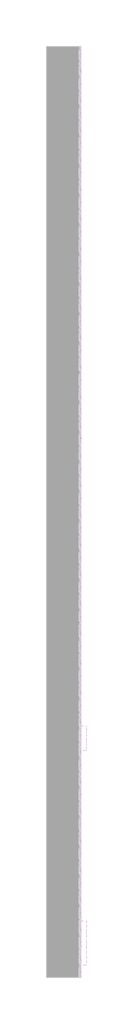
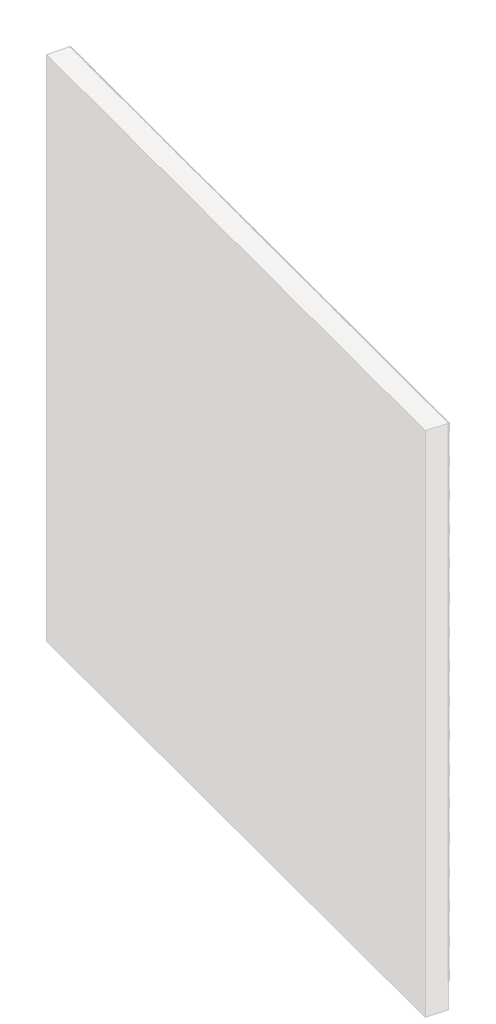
# One storey, part 111 of 121: 145 proxies.
"""IFC4 building model written with IfcOpenShell, lengths in millimetres."""

from ifc_helpers import new_model, si_unit, origin, place, context, project, spatial, transform, mapped, element, save
from components import generic_models_b2b2c5c1, generic_models_9bf73f6f, generic_models_5d175859

model = new_model("IFC4")

# Units and contexts
model_context = context("Model", 3, world=origin())
ifc_project = project(units=[si_unit("LENGTHUNIT", "METRE", prefix="MILLI")], contexts=[model_context])

# Site, building, storey
site = spatial("IfcSite", under=ifc_project)
building = spatial("IfcBuilding", under=site)
storey = spatial("IfcBuildingStorey", under=building, Name="PORTOBELLO - SHOWROOM", Elevation=0.0)

# Proxies
placement = place(None, origin())
generic_models_shape = generic_models_b2b2c5c1(model_context)
element("IfcBuildingElementProxy", 1, Name="PBSHOP - CUBICA WHITE 4,8X8,3 : CUBICA WHITE - POSIÇÃO 01", ObjectType="PBSHOP - CUBICA WHITE 4,8X8,3 : CUBICA WHITE - POSIÇÃO 01", at=placement, inside=storey, context=model_context, shape_type="MappedRepresentation", body=[
    mapped(generic_models_shape, transform((150369.5341846, 20014.1011688, 2249.5920413), x_axis=(0.0, 1.0, 0.0), y_axis=(0.0, 0.0, 1.0), z_axis=(1.0, 0.0, 0.0))),
])
element("IfcBuildingElementProxy", 2, Name="PBSHOP - CUBICA WHITE 4,8X8,3 : CUBICA WHITE - POSIÇÃO 01", ObjectType="PBSHOP - CUBICA WHITE 4,8X8,3 : CUBICA WHITE - POSIÇÃO 01", at=placement, inside=storey, context=model_context, shape_type="MappedRepresentation", body=[
    mapped(generic_models_shape, transform((150369.5341846, 20104.940438, 2249.5920413), x_axis=(0.0, 1.0, 0.0), y_axis=(0.0, 0.0, 1.0), z_axis=(1.0, 0.0, 0.0))),
])
element("IfcBuildingElementProxy", 3, Name="PBSHOP - CUBICA WHITE 4,8X8,3 : CUBICA WHITE - POSIÇÃO 01", ObjectType="PBSHOP - CUBICA WHITE 4,8X8,3 : CUBICA WHITE - POSIÇÃO 01", at=placement, inside=storey, context=model_context, shape_type="MappedRepresentation", body=[
    mapped(generic_models_shape, transform((150369.5341846, 20195.7797073, 2249.5920413), x_axis=(0.0, 1.0, 0.0), y_axis=(0.0, 0.0, 1.0), z_axis=(1.0, 0.0, 0.0))),
])
element("IfcBuildingElementProxy", 4, Name="PBSHOP - CUBICA WHITE 4,8X8,3 : CUBICA WHITE - POSIÇÃO 01", ObjectType="PBSHOP - CUBICA WHITE 4,8X8,3 : CUBICA WHITE - POSIÇÃO 01", at=placement, inside=storey, context=model_context, shape_type="MappedRepresentation", body=[
    mapped(generic_models_shape, transform((150369.5341846, 20286.6189765, 2249.5920413), x_axis=(0.0, 1.0, 0.0), y_axis=(0.0, 0.0, 1.0), z_axis=(1.0, 0.0, 0.0))),
])
element("IfcBuildingElementProxy", 5, Name="PBSHOP - CUBICA WHITE 4,8X8,3 : CUBICA WHITE - POSIÇÃO 01", ObjectType="PBSHOP - CUBICA WHITE 4,8X8,3 : CUBICA WHITE - POSIÇÃO 01", at=placement, inside=storey, context=model_context, shape_type="MappedRepresentation", body=[
    mapped(generic_models_shape, transform((150369.5341846, 20377.4582457, 2249.5920413), x_axis=(0.0, 1.0, 0.0), y_axis=(0.0, 0.0, 1.0), z_axis=(1.0, 0.0, 0.0))),
])
element("IfcBuildingElementProxy", 6, Name="PBSHOP - CUBICA WHITE 4,8X8,3 : CUBICA WHITE - POSIÇÃO 01", ObjectType="PBSHOP - CUBICA WHITE 4,8X8,3 : CUBICA WHITE - POSIÇÃO 01", at=placement, inside=storey, context=model_context, shape_type="MappedRepresentation", body=[
    mapped(generic_models_shape, transform((150369.5341846, 20468.297515, 2249.5920413), x_axis=(0.0, 1.0, 0.0), y_axis=(0.0, 0.0, 1.0), z_axis=(1.0, 0.0, 0.0))),
])
element("IfcBuildingElementProxy", 7, Name="PBSHOP - CUBICA WHITE 4,8X8,3 : CUBICA WHITE - POSIÇÃO 01", ObjectType="PBSHOP - CUBICA WHITE 4,8X8,3 : CUBICA WHITE - POSIÇÃO 01", at=placement, inside=storey, context=model_context, shape_type="MappedRepresentation", body=[
    mapped(generic_models_shape, transform((150369.5341846, 20559.1367842, 2249.5920413), x_axis=(0.0, 1.0, 0.0), y_axis=(0.0, 0.0, 1.0), z_axis=(1.0, 0.0, 0.0))),
])
element("IfcBuildingElementProxy", 8, Name="PBSHOP - CUBICA WHITE 4,8X8,3 : CUBICA WHITE - POSIÇÃO 01", ObjectType="PBSHOP - CUBICA WHITE 4,8X8,3 : CUBICA WHITE - POSIÇÃO 01", at=placement, inside=storey, context=model_context, shape_type="MappedRepresentation", body=[
    mapped(generic_models_shape, transform((150369.5341846, 20649.9760535, 2249.5920413), x_axis=(0.0, 1.0, 0.0), y_axis=(0.0, 0.0, 1.0), z_axis=(1.0, 0.0, 0.0))),
])
element("IfcBuildingElementProxy", 9, Name="PBSHOP - CUBICA WHITE 4,8X8,3 : CUBICA WHITE - POSIÇÃO 01", ObjectType="PBSHOP - CUBICA WHITE 4,8X8,3 : CUBICA WHITE - POSIÇÃO 01", at=placement, inside=storey, context=model_context, shape_type="MappedRepresentation", body=[
    mapped(generic_models_shape, transform((150369.5341846, 20740.8153227, 2249.5920413), x_axis=(0.0, 1.0, 0.0), y_axis=(0.0, 0.0, 1.0), z_axis=(1.0, 0.0, 0.0))),
])
element("IfcBuildingElementProxy", 10, Name="PBSHOP - CUBICA WHITE 4,8X8,3 : CUBICA WHITE - POSIÇÃO 01", ObjectType="PBSHOP - CUBICA WHITE 4,8X8,3 : CUBICA WHITE - POSIÇÃO 01", at=placement, inside=storey, context=model_context, shape_type="MappedRepresentation", body=[
    mapped(generic_models_shape, transform((150369.5341846, 20831.654592, 2249.5920413), x_axis=(0.0, 1.0, 0.0), y_axis=(0.0, 0.0, 1.0), z_axis=(1.0, 0.0, 0.0))),
])
element("IfcBuildingElementProxy", 11, Name="PBSHOP - CUBICA WHITE 4,8X8,3 : CUBICA WHITE - POSIÇÃO 01", ObjectType="PBSHOP - CUBICA WHITE 4,8X8,3 : CUBICA WHITE - POSIÇÃO 01", at=placement, inside=storey, context=model_context, shape_type="MappedRepresentation", body=[
    mapped(generic_models_shape, transform((150369.5341846, 20922.4938612, 2249.5920413), x_axis=(0.0, 1.0, 0.0), y_axis=(0.0, 0.0, 1.0), z_axis=(1.0, 0.0, 0.0))),
])
element("IfcBuildingElementProxy", 12, Name="PBSHOP - CUBICA WHITE 4,8X8,3 : CUBICA WHITE - POSIÇÃO 01", ObjectType="PBSHOP - CUBICA WHITE 4,8X8,3 : CUBICA WHITE - POSIÇÃO 01", at=placement, inside=storey, context=model_context, shape_type="MappedRepresentation", body=[
    mapped(generic_models_shape, transform((150369.5341846, 20059.5208034, 2328.5266797), x_axis=(0.0, 1.0, 0.0), y_axis=(0.0, 0.0, 1.0), z_axis=(1.0, 0.0, 0.0))),
])
element("IfcBuildingElementProxy", 13, Name="PBSHOP - CUBICA WHITE 4,8X8,3 : CUBICA WHITE - POSIÇÃO 01", ObjectType="PBSHOP - CUBICA WHITE 4,8X8,3 : CUBICA WHITE - POSIÇÃO 01", at=placement, inside=storey, context=model_context, shape_type="MappedRepresentation", body=[
    mapped(generic_models_shape, transform((150369.5341846, 20150.3600726, 2328.5266797), x_axis=(0.0, 1.0, 0.0), y_axis=(0.0, 0.0, 1.0), z_axis=(1.0, 0.0, 0.0))),
])
element("IfcBuildingElementProxy", 14, Name="PBSHOP - CUBICA WHITE 4,8X8,3 : CUBICA WHITE - POSIÇÃO 01", ObjectType="PBSHOP - CUBICA WHITE 4,8X8,3 : CUBICA WHITE - POSIÇÃO 01", at=placement, inside=storey, context=model_context, shape_type="MappedRepresentation", body=[
    mapped(generic_models_shape, transform((150369.5341846, 20241.1993419, 2328.5266797), x_axis=(0.0, 1.0, 0.0), y_axis=(0.0, 0.0, 1.0), z_axis=(1.0, 0.0, 0.0))),
])
element("IfcBuildingElementProxy", 15, Name="PBSHOP - CUBICA WHITE 4,8X8,3 : CUBICA WHITE - POSIÇÃO 01", ObjectType="PBSHOP - CUBICA WHITE 4,8X8,3 : CUBICA WHITE - POSIÇÃO 01", at=placement, inside=storey, context=model_context, shape_type="MappedRepresentation", body=[
    mapped(generic_models_shape, transform((150369.5341846, 20332.0386111, 2328.5266797), x_axis=(0.0, 1.0, 0.0), y_axis=(0.0, 0.0, 1.0), z_axis=(1.0, 0.0, 0.0))),
])
element("IfcBuildingElementProxy", 16, Name="PBSHOP - CUBICA WHITE 4,8X8,3 : CUBICA WHITE - POSIÇÃO 01", ObjectType="PBSHOP - CUBICA WHITE 4,8X8,3 : CUBICA WHITE - POSIÇÃO 01", at=placement, inside=storey, context=model_context, shape_type="MappedRepresentation", body=[
    mapped(generic_models_shape, transform((150369.5341846, 20422.8778804, 2328.5266797), x_axis=(0.0, 1.0, 0.0), y_axis=(0.0, 0.0, 1.0), z_axis=(1.0, 0.0, 0.0))),
])
element("IfcBuildingElementProxy", 17, Name="PBSHOP - CUBICA WHITE 4,8X8,3 : CUBICA WHITE - POSIÇÃO 01", ObjectType="PBSHOP - CUBICA WHITE 4,8X8,3 : CUBICA WHITE - POSIÇÃO 01", at=placement, inside=storey, context=model_context, shape_type="MappedRepresentation", body=[
    mapped(generic_models_shape, transform((150369.5341846, 20513.7171496, 2328.5266797), x_axis=(0.0, 1.0, 0.0), y_axis=(0.0, 0.0, 1.0), z_axis=(1.0, 0.0, 0.0))),
])
element("IfcBuildingElementProxy", 18, Name="PBSHOP - CUBICA WHITE 4,8X8,3 : CUBICA WHITE - POSIÇÃO 01", ObjectType="PBSHOP - CUBICA WHITE 4,8X8,3 : CUBICA WHITE - POSIÇÃO 01", at=placement, inside=storey, context=model_context, shape_type="MappedRepresentation", body=[
    mapped(generic_models_shape, transform((150369.5341846, 20604.5564189, 2328.5266797), x_axis=(0.0, 1.0, 0.0), y_axis=(0.0, 0.0, 1.0), z_axis=(1.0, 0.0, 0.0))),
])
element("IfcBuildingElementProxy", 19, Name="PBSHOP - CUBICA WHITE 4,8X8,3 : CUBICA WHITE - POSIÇÃO 01", ObjectType="PBSHOP - CUBICA WHITE 4,8X8,3 : CUBICA WHITE - POSIÇÃO 01", at=placement, inside=storey, context=model_context, shape_type="MappedRepresentation", body=[
    mapped(generic_models_shape, transform((150369.5341846, 20695.3956881, 2328.5266797), x_axis=(0.0, 1.0, 0.0), y_axis=(0.0, 0.0, 1.0), z_axis=(1.0, 0.0, 0.0))),
])
element("IfcBuildingElementProxy", 20, Name="PBSHOP - CUBICA WHITE 4,8X8,3 : CUBICA WHITE - POSIÇÃO 01", ObjectType="PBSHOP - CUBICA WHITE 4,8X8,3 : CUBICA WHITE - POSIÇÃO 01", at=placement, inside=storey, context=model_context, shape_type="MappedRepresentation", body=[
    mapped(generic_models_shape, transform((150369.5341846, 20786.2349573, 2328.5266797), x_axis=(0.0, 1.0, 0.0), y_axis=(0.0, 0.0, 1.0), z_axis=(1.0, 0.0, 0.0))),
])
element("IfcBuildingElementProxy", 21, Name="PBSHOP - CUBICA WHITE 4,8X8,3 : CUBICA WHITE - POSIÇÃO 01", ObjectType="PBSHOP - CUBICA WHITE 4,8X8,3 : CUBICA WHITE - POSIÇÃO 01", at=placement, inside=storey, context=model_context, shape_type="MappedRepresentation", body=[
    mapped(generic_models_shape, transform((150369.5341846, 20877.0742266, 2328.5266797), x_axis=(0.0, 1.0, 0.0), y_axis=(0.0, 0.0, 1.0), z_axis=(1.0, 0.0, 0.0))),
])
element("IfcBuildingElementProxy", 22, Name="PBSHOP - CUBICA WHITE 4,8X8,3 : CUBICA WHITE - POSIÇÃO 01", ObjectType="PBSHOP - CUBICA WHITE 4,8X8,3 : CUBICA WHITE - POSIÇÃO 01", at=placement, inside=storey, context=model_context, shape_type="MappedRepresentation", body=[
    mapped(generic_models_shape, transform((150369.5341846, 20967.9134958, 2328.5266797), x_axis=(0.0, 1.0, 0.0), y_axis=(0.0, 0.0, 1.0), z_axis=(1.0, 0.0, 0.0))),
])
element("IfcBuildingElementProxy", 23, Name="PBSHOP - CUBICA WHITE 4,8X8,3 : CUBICA WHITE - POSIÇÃO 01", ObjectType="PBSHOP - CUBICA WHITE 4,8X8,3 : CUBICA WHITE - POSIÇÃO 01", at=placement, inside=storey, context=model_context, shape_type="MappedRepresentation", body=[
    mapped(generic_models_shape, transform((150369.5341846, 20014.1011688, 2407.461318), x_axis=(0.0, 1.0, 0.0), y_axis=(0.0, 0.0, 1.0), z_axis=(1.0, 0.0, 0.0))),
])
element("IfcBuildingElementProxy", 24, Name="PBSHOP - CUBICA WHITE 4,8X8,3 : CUBICA WHITE - POSIÇÃO 01", ObjectType="PBSHOP - CUBICA WHITE 4,8X8,3 : CUBICA WHITE - POSIÇÃO 01", at=placement, inside=storey, context=model_context, shape_type="MappedRepresentation", body=[
    mapped(generic_models_shape, transform((150369.5341846, 20104.940438, 2407.461318), x_axis=(0.0, 1.0, 0.0), y_axis=(0.0, 0.0, 1.0), z_axis=(1.0, 0.0, 0.0))),
])
element("IfcBuildingElementProxy", 25, Name="PBSHOP - CUBICA WHITE 4,8X8,3 : CUBICA WHITE - POSIÇÃO 01", ObjectType="PBSHOP - CUBICA WHITE 4,8X8,3 : CUBICA WHITE - POSIÇÃO 01", at=placement, inside=storey, context=model_context, shape_type="MappedRepresentation", body=[
    mapped(generic_models_shape, transform((150369.5341846, 20195.7797073, 2407.461318), x_axis=(0.0, 1.0, 0.0), y_axis=(0.0, 0.0, 1.0), z_axis=(1.0, 0.0, 0.0))),
])
element("IfcBuildingElementProxy", 26, Name="PBSHOP - CUBICA WHITE 4,8X8,3 : CUBICA WHITE - POSIÇÃO 01", ObjectType="PBSHOP - CUBICA WHITE 4,8X8,3 : CUBICA WHITE - POSIÇÃO 01", at=placement, inside=storey, context=model_context, shape_type="MappedRepresentation", body=[
    mapped(generic_models_shape, transform((150369.5341846, 20286.6189765, 2407.461318), x_axis=(0.0, 1.0, 0.0), y_axis=(0.0, 0.0, 1.0), z_axis=(1.0, 0.0, 0.0))),
])
element("IfcBuildingElementProxy", 27, Name="PBSHOP - CUBICA WHITE 4,8X8,3 : CUBICA WHITE - POSIÇÃO 01", ObjectType="PBSHOP - CUBICA WHITE 4,8X8,3 : CUBICA WHITE - POSIÇÃO 01", at=placement, inside=storey, context=model_context, shape_type="MappedRepresentation", body=[
    mapped(generic_models_shape, transform((150369.5341846, 20377.4582457, 2407.461318), x_axis=(0.0, 1.0, 0.0), y_axis=(0.0, 0.0, 1.0), z_axis=(1.0, 0.0, 0.0))),
])
element("IfcBuildingElementProxy", 28, Name="PBSHOP - CUBICA WHITE 4,8X8,3 : CUBICA WHITE - POSIÇÃO 01", ObjectType="PBSHOP - CUBICA WHITE 4,8X8,3 : CUBICA WHITE - POSIÇÃO 01", at=placement, inside=storey, context=model_context, shape_type="MappedRepresentation", body=[
    mapped(generic_models_shape, transform((150369.5341846, 20468.297515, 2407.461318), x_axis=(0.0, 1.0, 0.0), y_axis=(0.0, 0.0, 1.0), z_axis=(1.0, 0.0, 0.0))),
])
element("IfcBuildingElementProxy", 29, Name="PBSHOP - CUBICA WHITE 4,8X8,3 : CUBICA WHITE - POSIÇÃO 01", ObjectType="PBSHOP - CUBICA WHITE 4,8X8,3 : CUBICA WHITE - POSIÇÃO 01", at=placement, inside=storey, context=model_context, shape_type="MappedRepresentation", body=[
    mapped(generic_models_shape, transform((150369.5341846, 20559.1367842, 2407.461318), x_axis=(0.0, 1.0, 0.0), y_axis=(0.0, 0.0, 1.0), z_axis=(1.0, 0.0, 0.0))),
])
element("IfcBuildingElementProxy", 30, Name="PBSHOP - CUBICA WHITE 4,8X8,3 : CUBICA WHITE - POSIÇÃO 01", ObjectType="PBSHOP - CUBICA WHITE 4,8X8,3 : CUBICA WHITE - POSIÇÃO 01", at=placement, inside=storey, context=model_context, shape_type="MappedRepresentation", body=[
    mapped(generic_models_shape, transform((150369.5341846, 20649.9760535, 2407.461318), x_axis=(0.0, 1.0, 0.0), y_axis=(0.0, 0.0, 1.0), z_axis=(1.0, 0.0, 0.0))),
])
element("IfcBuildingElementProxy", 31, Name="PBSHOP - CUBICA WHITE 4,8X8,3 : CUBICA WHITE - POSIÇÃO 01", ObjectType="PBSHOP - CUBICA WHITE 4,8X8,3 : CUBICA WHITE - POSIÇÃO 01", at=placement, inside=storey, context=model_context, shape_type="MappedRepresentation", body=[
    mapped(generic_models_shape, transform((150369.5341846, 20740.8153227, 2407.461318), x_axis=(0.0, 1.0, 0.0), y_axis=(0.0, 0.0, 1.0), z_axis=(1.0, 0.0, 0.0))),
])
element("IfcBuildingElementProxy", 32, Name="PBSHOP - CUBICA WHITE 4,8X8,3 : CUBICA WHITE - POSIÇÃO 01", ObjectType="PBSHOP - CUBICA WHITE 4,8X8,3 : CUBICA WHITE - POSIÇÃO 01", at=placement, inside=storey, context=model_context, shape_type="MappedRepresentation", body=[
    mapped(generic_models_shape, transform((150369.5341846, 20831.654592, 2407.461318), x_axis=(0.0, 1.0, 0.0), y_axis=(0.0, 0.0, 1.0), z_axis=(1.0, 0.0, 0.0))),
])
element("IfcBuildingElementProxy", 33, Name="PBSHOP - CUBICA WHITE 4,8X8,3 : CUBICA WHITE - POSIÇÃO 01", ObjectType="PBSHOP - CUBICA WHITE 4,8X8,3 : CUBICA WHITE - POSIÇÃO 01", at=placement, inside=storey, context=model_context, shape_type="MappedRepresentation", body=[
    mapped(generic_models_shape, transform((150369.5341846, 20922.4938612, 2407.461318), x_axis=(0.0, 1.0, 0.0), y_axis=(0.0, 0.0, 1.0), z_axis=(1.0, 0.0, 0.0))),
])
element("IfcBuildingElementProxy", 34, Name="PBSHOP - CUBICA WHITE 4,8X8,3 : CUBICA WHITE - POSIÇÃO 01", ObjectType="PBSHOP - CUBICA WHITE 4,8X8,3 : CUBICA WHITE - POSIÇÃO 01", at=placement, inside=storey, context=model_context, shape_type="MappedRepresentation", body=[
    mapped(generic_models_shape, transform((150369.5341846, 20059.5208034, 2486.3959564), x_axis=(0.0, 1.0, 0.0), y_axis=(0.0, 0.0, 1.0), z_axis=(1.0, 0.0, 0.0))),
])
element("IfcBuildingElementProxy", 35, Name="PBSHOP - CUBICA WHITE 4,8X8,3 : CUBICA WHITE - POSIÇÃO 01", ObjectType="PBSHOP - CUBICA WHITE 4,8X8,3 : CUBICA WHITE - POSIÇÃO 01", at=placement, inside=storey, context=model_context, shape_type="MappedRepresentation", body=[
    mapped(generic_models_shape, transform((150369.5341846, 20150.3600726, 2486.3959564), x_axis=(0.0, 1.0, 0.0), y_axis=(0.0, 0.0, 1.0), z_axis=(1.0, 0.0, 0.0))),
])
element("IfcBuildingElementProxy", 36, Name="PBSHOP - CUBICA WHITE 4,8X8,3 : CUBICA WHITE - POSIÇÃO 01", ObjectType="PBSHOP - CUBICA WHITE 4,8X8,3 : CUBICA WHITE - POSIÇÃO 01", at=placement, inside=storey, context=model_context, shape_type="MappedRepresentation", body=[
    mapped(generic_models_shape, transform((150369.5341846, 20241.1993419, 2486.3959564), x_axis=(0.0, 1.0, 0.0), y_axis=(0.0, 0.0, 1.0), z_axis=(1.0, 0.0, 0.0))),
])
element("IfcBuildingElementProxy", 37, Name="PBSHOP - CUBICA WHITE 4,8X8,3 : CUBICA WHITE - POSIÇÃO 01", ObjectType="PBSHOP - CUBICA WHITE 4,8X8,3 : CUBICA WHITE - POSIÇÃO 01", at=placement, inside=storey, context=model_context, shape_type="MappedRepresentation", body=[
    mapped(generic_models_shape, transform((150369.5341846, 20332.0386111, 2486.3959564), x_axis=(0.0, 1.0, 0.0), y_axis=(0.0, 0.0, 1.0), z_axis=(1.0, 0.0, 0.0))),
])
element("IfcBuildingElementProxy", 38, Name="PBSHOP - CUBICA WHITE 4,8X8,3 : CUBICA WHITE - POSIÇÃO 01", ObjectType="PBSHOP - CUBICA WHITE 4,8X8,3 : CUBICA WHITE - POSIÇÃO 01", at=placement, inside=storey, context=model_context, shape_type="MappedRepresentation", body=[
    mapped(generic_models_shape, transform((150369.5341846, 20422.8778804, 2486.3959564), x_axis=(0.0, 1.0, 0.0), y_axis=(0.0, 0.0, 1.0), z_axis=(1.0, 0.0, 0.0))),
])
element("IfcBuildingElementProxy", 39, Name="PBSHOP - CUBICA WHITE 4,8X8,3 : CUBICA WHITE - POSIÇÃO 01", ObjectType="PBSHOP - CUBICA WHITE 4,8X8,3 : CUBICA WHITE - POSIÇÃO 01", at=placement, inside=storey, context=model_context, shape_type="MappedRepresentation", body=[
    mapped(generic_models_shape, transform((150369.5341846, 20513.7171496, 2486.3959564), x_axis=(0.0, 1.0, 0.0), y_axis=(0.0, 0.0, 1.0), z_axis=(1.0, 0.0, 0.0))),
])
element("IfcBuildingElementProxy", 40, Name="PBSHOP - CUBICA WHITE 4,8X8,3 : CUBICA WHITE - POSIÇÃO 01", ObjectType="PBSHOP - CUBICA WHITE 4,8X8,3 : CUBICA WHITE - POSIÇÃO 01", at=placement, inside=storey, context=model_context, shape_type="MappedRepresentation", body=[
    mapped(generic_models_shape, transform((150369.5341846, 20604.5564189, 2486.3959564), x_axis=(0.0, 1.0, 0.0), y_axis=(0.0, 0.0, 1.0), z_axis=(1.0, 0.0, 0.0))),
])
element("IfcBuildingElementProxy", 41, Name="PBSHOP - CUBICA WHITE 4,8X8,3 : CUBICA WHITE - POSIÇÃO 01", ObjectType="PBSHOP - CUBICA WHITE 4,8X8,3 : CUBICA WHITE - POSIÇÃO 01", at=placement, inside=storey, context=model_context, shape_type="MappedRepresentation", body=[
    mapped(generic_models_shape, transform((150369.5341846, 20695.3956881, 2486.3959564), x_axis=(0.0, 1.0, 0.0), y_axis=(0.0, 0.0, 1.0), z_axis=(1.0, 0.0, 0.0))),
])
element("IfcBuildingElementProxy", 42, Name="PBSHOP - CUBICA WHITE 4,8X8,3 : CUBICA WHITE - POSIÇÃO 01", ObjectType="PBSHOP - CUBICA WHITE 4,8X8,3 : CUBICA WHITE - POSIÇÃO 01", at=placement, inside=storey, context=model_context, shape_type="MappedRepresentation", body=[
    mapped(generic_models_shape, transform((150369.5341846, 20786.2349573, 2486.3959564), x_axis=(0.0, 1.0, 0.0), y_axis=(0.0, 0.0, 1.0), z_axis=(1.0, 0.0, 0.0))),
])
element("IfcBuildingElementProxy", 43, Name="PBSHOP - CUBICA WHITE 4,8X8,3 : CUBICA WHITE - POSIÇÃO 01", ObjectType="PBSHOP - CUBICA WHITE 4,8X8,3 : CUBICA WHITE - POSIÇÃO 01", at=placement, inside=storey, context=model_context, shape_type="MappedRepresentation", body=[
    mapped(generic_models_shape, transform((150369.5341846, 20877.0742266, 2486.3959564), x_axis=(0.0, 1.0, 0.0), y_axis=(0.0, 0.0, 1.0), z_axis=(1.0, 0.0, 0.0))),
])
element("IfcBuildingElementProxy", 44, Name="PBSHOP - CUBICA WHITE 4,8X8,3 : CUBICA WHITE - POSIÇÃO 01", ObjectType="PBSHOP - CUBICA WHITE 4,8X8,3 : CUBICA WHITE - POSIÇÃO 01", at=placement, inside=storey, context=model_context, shape_type="MappedRepresentation", body=[
    mapped(generic_models_shape, transform((150369.5341846, 20967.9134958, 2486.3959564), x_axis=(0.0, 1.0, 0.0), y_axis=(0.0, 0.0, 1.0), z_axis=(1.0, 0.0, 0.0))),
])
element("IfcBuildingElementProxy", 45, Name="PBSHOP - CUBICA WHITE 4,8X8,3 : CUBICA WHITE - POSIÇÃO 01", ObjectType="PBSHOP - CUBICA WHITE 4,8X8,3 : CUBICA WHITE - POSIÇÃO 01", at=placement, inside=storey, context=model_context, shape_type="MappedRepresentation", body=[
    mapped(generic_models_shape, transform((150369.5341846, 20014.1011688, 2565.3305948), x_axis=(0.0, 1.0, 0.0), y_axis=(0.0, 0.0, 1.0), z_axis=(1.0, 0.0, 0.0))),
])
element("IfcBuildingElementProxy", 46, Name="PBSHOP - CUBICA WHITE 4,8X8,3 : CUBICA WHITE - POSIÇÃO 01", ObjectType="PBSHOP - CUBICA WHITE 4,8X8,3 : CUBICA WHITE - POSIÇÃO 01", at=placement, inside=storey, context=model_context, shape_type="MappedRepresentation", body=[
    mapped(generic_models_shape, transform((150369.5341846, 20104.940438, 2565.3305948), x_axis=(0.0, 1.0, 0.0), y_axis=(0.0, 0.0, 1.0), z_axis=(1.0, 0.0, 0.0))),
])
element("IfcBuildingElementProxy", 47, Name="PBSHOP - CUBICA WHITE 4,8X8,3 : CUBICA WHITE - POSIÇÃO 01", ObjectType="PBSHOP - CUBICA WHITE 4,8X8,3 : CUBICA WHITE - POSIÇÃO 01", at=placement, inside=storey, context=model_context, shape_type="MappedRepresentation", body=[
    mapped(generic_models_shape, transform((150369.5341846, 20195.7797073, 2565.3305948), x_axis=(0.0, 1.0, 0.0), y_axis=(0.0, 0.0, 1.0), z_axis=(1.0, 0.0, 0.0))),
])
element("IfcBuildingElementProxy", 48, Name="PBSHOP - CUBICA WHITE 4,8X8,3 : CUBICA WHITE - POSIÇÃO 01", ObjectType="PBSHOP - CUBICA WHITE 4,8X8,3 : CUBICA WHITE - POSIÇÃO 01", at=placement, inside=storey, context=model_context, shape_type="MappedRepresentation", body=[
    mapped(generic_models_shape, transform((150369.5341846, 20286.6189765, 2565.3305948), x_axis=(0.0, 1.0, 0.0), y_axis=(0.0, 0.0, 1.0), z_axis=(1.0, 0.0, 0.0))),
])
element("IfcBuildingElementProxy", 49, Name="PBSHOP - CUBICA WHITE 4,8X8,3 : CUBICA WHITE - POSIÇÃO 01", ObjectType="PBSHOP - CUBICA WHITE 4,8X8,3 : CUBICA WHITE - POSIÇÃO 01", at=placement, inside=storey, context=model_context, shape_type="MappedRepresentation", body=[
    mapped(generic_models_shape, transform((150369.5341846, 20377.4582457, 2565.3305948), x_axis=(0.0, 1.0, 0.0), y_axis=(0.0, 0.0, 1.0), z_axis=(1.0, 0.0, 0.0))),
])
element("IfcBuildingElementProxy", 50, Name="PBSHOP - CUBICA WHITE 4,8X8,3 : CUBICA WHITE - POSIÇÃO 01", ObjectType="PBSHOP - CUBICA WHITE 4,8X8,3 : CUBICA WHITE - POSIÇÃO 01", at=placement, inside=storey, context=model_context, shape_type="MappedRepresentation", body=[
    mapped(generic_models_shape, transform((150369.5341846, 20468.297515, 2565.3305948), x_axis=(0.0, 1.0, 0.0), y_axis=(0.0, 0.0, 1.0), z_axis=(1.0, 0.0, 0.0))),
])
element("IfcBuildingElementProxy", 51, Name="PBSHOP - CUBICA WHITE 4,8X8,3 : CUBICA WHITE - POSIÇÃO 01", ObjectType="PBSHOP - CUBICA WHITE 4,8X8,3 : CUBICA WHITE - POSIÇÃO 01", at=placement, inside=storey, context=model_context, shape_type="MappedRepresentation", body=[
    mapped(generic_models_shape, transform((150369.5341846, 20559.1367842, 2565.3305948), x_axis=(0.0, 1.0, 0.0), y_axis=(0.0, 0.0, 1.0), z_axis=(1.0, 0.0, 0.0))),
])
generic_models_2_shape = generic_models_9bf73f6f(model_context)
element("IfcBuildingElementProxy", 52, Name="PBSHOP - CUBICA WHITE 4,8X8,3 : CUBICA WHITE - POSIÇÃO 03", ObjectType="PBSHOP - CUBICA WHITE 4,8X8,3 : CUBICA WHITE - POSIÇÃO 03", at=placement, inside=storey, context=model_context, shape_type="MappedRepresentation", body=[
    mapped(generic_models_2_shape, transform((150369.5341846, 20082.2327799, 2210.0835117), x_axis=(0.0, 1.0, 0.0), y_axis=(0.0, 0.0, 1.0), z_axis=(1.0, 0.0, 0.0))),
])
element("IfcBuildingElementProxy", 53, Name="PBSHOP - CUBICA WHITE 4,8X8,3 : CUBICA WHITE - POSIÇÃO 03", ObjectType="PBSHOP - CUBICA WHITE 4,8X8,3 : CUBICA WHITE - POSIÇÃO 03", at=placement, inside=storey, context=model_context, shape_type="MappedRepresentation", body=[
    mapped(generic_models_2_shape, transform((150369.5341846, 20173.0720491, 2210.0835117), x_axis=(0.0, 1.0, 0.0), y_axis=(0.0, 0.0, 1.0), z_axis=(1.0, 0.0, 0.0))),
])
element("IfcBuildingElementProxy", 54, Name="PBSHOP - CUBICA WHITE 4,8X8,3 : CUBICA WHITE - POSIÇÃO 03", ObjectType="PBSHOP - CUBICA WHITE 4,8X8,3 : CUBICA WHITE - POSIÇÃO 03", at=placement, inside=storey, context=model_context, shape_type="MappedRepresentation", body=[
    mapped(generic_models_2_shape, transform((150369.5341846, 20263.9113184, 2210.0835117), x_axis=(0.0, 1.0, 0.0), y_axis=(0.0, 0.0, 1.0), z_axis=(1.0, 0.0, 0.0))),
])
element("IfcBuildingElementProxy", 55, Name="PBSHOP - CUBICA WHITE 4,8X8,3 : CUBICA WHITE - POSIÇÃO 03", ObjectType="PBSHOP - CUBICA WHITE 4,8X8,3 : CUBICA WHITE - POSIÇÃO 03", at=placement, inside=storey, context=model_context, shape_type="MappedRepresentation", body=[
    mapped(generic_models_2_shape, transform((150369.5341846, 20354.7505876, 2210.0835117), x_axis=(0.0, 1.0, 0.0), y_axis=(0.0, 0.0, 1.0), z_axis=(1.0, 0.0, 0.0))),
])
element("IfcBuildingElementProxy", 56, Name="PBSHOP - CUBICA WHITE 4,8X8,3 : CUBICA WHITE - POSIÇÃO 03", ObjectType="PBSHOP - CUBICA WHITE 4,8X8,3 : CUBICA WHITE - POSIÇÃO 03", at=placement, inside=storey, context=model_context, shape_type="MappedRepresentation", body=[
    mapped(generic_models_2_shape, transform((150369.5341846, 20445.5898568, 2210.0835117), x_axis=(0.0, 1.0, 0.0), y_axis=(0.0, 0.0, 1.0), z_axis=(1.0, 0.0, 0.0))),
])
element("IfcBuildingElementProxy", 57, Name="PBSHOP - CUBICA WHITE 4,8X8,3 : CUBICA WHITE - POSIÇÃO 03", ObjectType="PBSHOP - CUBICA WHITE 4,8X8,3 : CUBICA WHITE - POSIÇÃO 03", at=placement, inside=storey, context=model_context, shape_type="MappedRepresentation", body=[
    mapped(generic_models_2_shape, transform((150369.5341846, 20536.4291261, 2210.0835117), x_axis=(0.0, 1.0, 0.0), y_axis=(0.0, 0.0, 1.0), z_axis=(1.0, 0.0, 0.0))),
])
element("IfcBuildingElementProxy", 58, Name="PBSHOP - CUBICA WHITE 4,8X8,3 : CUBICA WHITE - POSIÇÃO 03", ObjectType="PBSHOP - CUBICA WHITE 4,8X8,3 : CUBICA WHITE - POSIÇÃO 03", at=placement, inside=storey, context=model_context, shape_type="MappedRepresentation", body=[
    mapped(generic_models_2_shape, transform((150369.5341846, 20627.2683953, 2210.0835117), x_axis=(0.0, 1.0, 0.0), y_axis=(0.0, 0.0, 1.0), z_axis=(1.0, 0.0, 0.0))),
])
element("IfcBuildingElementProxy", 59, Name="PBSHOP - CUBICA WHITE 4,8X8,3 : CUBICA WHITE - POSIÇÃO 03", ObjectType="PBSHOP - CUBICA WHITE 4,8X8,3 : CUBICA WHITE - POSIÇÃO 03", at=placement, inside=storey, context=model_context, shape_type="MappedRepresentation", body=[
    mapped(generic_models_2_shape, transform((150369.5341846, 20718.1076646, 2210.0835117), x_axis=(0.0, 1.0, 0.0), y_axis=(0.0, 0.0, 1.0), z_axis=(1.0, 0.0, 0.0))),
])
element("IfcBuildingElementProxy", 60, Name="PBSHOP - CUBICA WHITE 4,8X8,3 : CUBICA WHITE - POSIÇÃO 03", ObjectType="PBSHOP - CUBICA WHITE 4,8X8,3 : CUBICA WHITE - POSIÇÃO 03", at=placement, inside=storey, context=model_context, shape_type="MappedRepresentation", body=[
    mapped(generic_models_2_shape, transform((150369.5341846, 20808.9469338, 2210.0835117), x_axis=(0.0, 1.0, 0.0), y_axis=(0.0, 0.0, 1.0), z_axis=(1.0, 0.0, 0.0))),
])
element("IfcBuildingElementProxy", 61, Name="PBSHOP - CUBICA WHITE 4,8X8,3 : CUBICA WHITE - POSIÇÃO 03", ObjectType="PBSHOP - CUBICA WHITE 4,8X8,3 : CUBICA WHITE - POSIÇÃO 03", at=placement, inside=storey, context=model_context, shape_type="MappedRepresentation", body=[
    mapped(generic_models_2_shape, transform((150369.5341846, 20899.7862031, 2210.0835117), x_axis=(0.0, 1.0, 0.0), y_axis=(0.0, 0.0, 1.0), z_axis=(1.0, 0.0, 0.0))),
])
element("IfcBuildingElementProxy", 62, Name="PBSHOP - CUBICA WHITE 4,8X8,3 : CUBICA WHITE - POSIÇÃO 03", ObjectType="PBSHOP - CUBICA WHITE 4,8X8,3 : CUBICA WHITE - POSIÇÃO 03", at=placement, inside=storey, context=model_context, shape_type="MappedRepresentation", body=[
    mapped(generic_models_2_shape, transform((150369.5341846, 20990.6254723, 2210.0835117), x_axis=(0.0, 1.0, 0.0), y_axis=(0.0, 0.0, 1.0), z_axis=(1.0, 0.0, 0.0))),
])
element("IfcBuildingElementProxy", 63, Name="PBSHOP - CUBICA WHITE 4,8X8,3 : CUBICA WHITE - POSIÇÃO 03", ObjectType="PBSHOP - CUBICA WHITE 4,8X8,3 : CUBICA WHITE - POSIÇÃO 03", at=placement, inside=storey, context=model_context, shape_type="MappedRepresentation", body=[
    mapped(generic_models_2_shape, transform((150369.5341846, 20036.8131452, 2289.0181501), x_axis=(0.0, 1.0, 0.0), y_axis=(0.0, 0.0, 1.0), z_axis=(1.0, 0.0, 0.0))),
])
element("IfcBuildingElementProxy", 64, Name="PBSHOP - CUBICA WHITE 4,8X8,3 : CUBICA WHITE - POSIÇÃO 03", ObjectType="PBSHOP - CUBICA WHITE 4,8X8,3 : CUBICA WHITE - POSIÇÃO 03", at=placement, inside=storey, context=model_context, shape_type="MappedRepresentation", body=[
    mapped(generic_models_2_shape, transform((150369.5341846, 20127.6524145, 2289.0181501), x_axis=(0.0, 1.0, 0.0), y_axis=(0.0, 0.0, 1.0), z_axis=(1.0, 0.0, 0.0))),
])
element("IfcBuildingElementProxy", 65, Name="PBSHOP - CUBICA WHITE 4,8X8,3 : CUBICA WHITE - POSIÇÃO 03", ObjectType="PBSHOP - CUBICA WHITE 4,8X8,3 : CUBICA WHITE - POSIÇÃO 03", at=placement, inside=storey, context=model_context, shape_type="MappedRepresentation", body=[
    mapped(generic_models_2_shape, transform((150369.5341846, 20218.4916837, 2289.0181501), x_axis=(0.0, 1.0, 0.0), y_axis=(0.0, 0.0, 1.0), z_axis=(1.0, 0.0, 0.0))),
])
element("IfcBuildingElementProxy", 66, Name="PBSHOP - CUBICA WHITE 4,8X8,3 : CUBICA WHITE - POSIÇÃO 03", ObjectType="PBSHOP - CUBICA WHITE 4,8X8,3 : CUBICA WHITE - POSIÇÃO 03", at=placement, inside=storey, context=model_context, shape_type="MappedRepresentation", body=[
    mapped(generic_models_2_shape, transform((150369.5341846, 20309.330953, 2289.0181501), x_axis=(0.0, 1.0, 0.0), y_axis=(0.0, 0.0, 1.0), z_axis=(1.0, 0.0, 0.0))),
])
element("IfcBuildingElementProxy", 67, Name="PBSHOP - CUBICA WHITE 4,8X8,3 : CUBICA WHITE - POSIÇÃO 03", ObjectType="PBSHOP - CUBICA WHITE 4,8X8,3 : CUBICA WHITE - POSIÇÃO 03", at=placement, inside=storey, context=model_context, shape_type="MappedRepresentation", body=[
    mapped(generic_models_2_shape, transform((150369.5341846, 20400.1702222, 2289.0181501), x_axis=(0.0, 1.0, 0.0), y_axis=(0.0, 0.0, 1.0), z_axis=(1.0, 0.0, 0.0))),
])
element("IfcBuildingElementProxy", 68, Name="PBSHOP - CUBICA WHITE 4,8X8,3 : CUBICA WHITE - POSIÇÃO 03", ObjectType="PBSHOP - CUBICA WHITE 4,8X8,3 : CUBICA WHITE - POSIÇÃO 03", at=placement, inside=storey, context=model_context, shape_type="MappedRepresentation", body=[
    mapped(generic_models_2_shape, transform((150369.5341846, 20491.0094915, 2289.0181501), x_axis=(0.0, 1.0, 0.0), y_axis=(0.0, 0.0, 1.0), z_axis=(1.0, 0.0, 0.0))),
])
element("IfcBuildingElementProxy", 69, Name="PBSHOP - CUBICA WHITE 4,8X8,3 : CUBICA WHITE - POSIÇÃO 03", ObjectType="PBSHOP - CUBICA WHITE 4,8X8,3 : CUBICA WHITE - POSIÇÃO 03", at=placement, inside=storey, context=model_context, shape_type="MappedRepresentation", body=[
    mapped(generic_models_2_shape, transform((150369.5341846, 20581.8487607, 2289.0181501), x_axis=(0.0, 1.0, 0.0), y_axis=(0.0, 0.0, 1.0), z_axis=(1.0, 0.0, 0.0))),
])
element("IfcBuildingElementProxy", 70, Name="PBSHOP - CUBICA WHITE 4,8X8,3 : CUBICA WHITE - POSIÇÃO 03", ObjectType="PBSHOP - CUBICA WHITE 4,8X8,3 : CUBICA WHITE - POSIÇÃO 03", at=placement, inside=storey, context=model_context, shape_type="MappedRepresentation", body=[
    mapped(generic_models_2_shape, transform((150369.5341846, 20672.6880299, 2289.0181501), x_axis=(0.0, 1.0, 0.0), y_axis=(0.0, 0.0, 1.0), z_axis=(1.0, 0.0, 0.0))),
])
element("IfcBuildingElementProxy", 71, Name="PBSHOP - CUBICA WHITE 4,8X8,3 : CUBICA WHITE - POSIÇÃO 03", ObjectType="PBSHOP - CUBICA WHITE 4,8X8,3 : CUBICA WHITE - POSIÇÃO 03", at=placement, inside=storey, context=model_context, shape_type="MappedRepresentation", body=[
    mapped(generic_models_2_shape, transform((150369.5341846, 20763.5272992, 2289.0181501), x_axis=(0.0, 1.0, 0.0), y_axis=(0.0, 0.0, 1.0), z_axis=(1.0, 0.0, 0.0))),
])
element("IfcBuildingElementProxy", 72, Name="PBSHOP - CUBICA WHITE 4,8X8,3 : CUBICA WHITE - POSIÇÃO 03", ObjectType="PBSHOP - CUBICA WHITE 4,8X8,3 : CUBICA WHITE - POSIÇÃO 03", at=placement, inside=storey, context=model_context, shape_type="MappedRepresentation", body=[
    mapped(generic_models_2_shape, transform((150369.5341846, 20854.3665684, 2289.0181501), x_axis=(0.0, 1.0, 0.0), y_axis=(0.0, 0.0, 1.0), z_axis=(1.0, 0.0, 0.0))),
])
element("IfcBuildingElementProxy", 73, Name="PBSHOP - CUBICA WHITE 4,8X8,3 : CUBICA WHITE - POSIÇÃO 03", ObjectType="PBSHOP - CUBICA WHITE 4,8X8,3 : CUBICA WHITE - POSIÇÃO 03", at=placement, inside=storey, context=model_context, shape_type="MappedRepresentation", body=[
    mapped(generic_models_2_shape, transform((150369.5341846, 20945.2058377, 2289.0181501), x_axis=(0.0, 1.0, 0.0), y_axis=(0.0, 0.0, 1.0), z_axis=(1.0, 0.0, 0.0))),
])
element("IfcBuildingElementProxy", 74, Name="PBSHOP - CUBICA WHITE 4,8X8,3 : CUBICA WHITE - POSIÇÃO 03", ObjectType="PBSHOP - CUBICA WHITE 4,8X8,3 : CUBICA WHITE - POSIÇÃO 03", at=placement, inside=storey, context=model_context, shape_type="MappedRepresentation", body=[
    mapped(generic_models_2_shape, transform((150369.5341846, 20082.2327799, 2367.9527884), x_axis=(0.0, 1.0, 0.0), y_axis=(0.0, 0.0, 1.0), z_axis=(1.0, 0.0, 0.0))),
])
element("IfcBuildingElementProxy", 75, Name="PBSHOP - CUBICA WHITE 4,8X8,3 : CUBICA WHITE - POSIÇÃO 03", ObjectType="PBSHOP - CUBICA WHITE 4,8X8,3 : CUBICA WHITE - POSIÇÃO 03", at=placement, inside=storey, context=model_context, shape_type="MappedRepresentation", body=[
    mapped(generic_models_2_shape, transform((150369.5341846, 20173.0720491, 2367.9527884), x_axis=(0.0, 1.0, 0.0), y_axis=(0.0, 0.0, 1.0), z_axis=(1.0, 0.0, 0.0))),
])
element("IfcBuildingElementProxy", 76, Name="PBSHOP - CUBICA WHITE 4,8X8,3 : CUBICA WHITE - POSIÇÃO 03", ObjectType="PBSHOP - CUBICA WHITE 4,8X8,3 : CUBICA WHITE - POSIÇÃO 03", at=placement, inside=storey, context=model_context, shape_type="MappedRepresentation", body=[
    mapped(generic_models_2_shape, transform((150369.5341846, 20263.9113184, 2367.9527884), x_axis=(0.0, 1.0, 0.0), y_axis=(0.0, 0.0, 1.0), z_axis=(1.0, 0.0, 0.0))),
])
element("IfcBuildingElementProxy", 77, Name="PBSHOP - CUBICA WHITE 4,8X8,3 : CUBICA WHITE - POSIÇÃO 03", ObjectType="PBSHOP - CUBICA WHITE 4,8X8,3 : CUBICA WHITE - POSIÇÃO 03", at=placement, inside=storey, context=model_context, shape_type="MappedRepresentation", body=[
    mapped(generic_models_2_shape, transform((150369.5341846, 20354.7505876, 2367.9527884), x_axis=(0.0, 1.0, 0.0), y_axis=(0.0, 0.0, 1.0), z_axis=(1.0, 0.0, 0.0))),
])
element("IfcBuildingElementProxy", 78, Name="PBSHOP - CUBICA WHITE 4,8X8,3 : CUBICA WHITE - POSIÇÃO 03", ObjectType="PBSHOP - CUBICA WHITE 4,8X8,3 : CUBICA WHITE - POSIÇÃO 03", at=placement, inside=storey, context=model_context, shape_type="MappedRepresentation", body=[
    mapped(generic_models_2_shape, transform((150369.5341846, 20445.5898568, 2367.9527884), x_axis=(0.0, 1.0, 0.0), y_axis=(0.0, 0.0, 1.0), z_axis=(1.0, 0.0, 0.0))),
])
element("IfcBuildingElementProxy", 79, Name="PBSHOP - CUBICA WHITE 4,8X8,3 : CUBICA WHITE - POSIÇÃO 03", ObjectType="PBSHOP - CUBICA WHITE 4,8X8,3 : CUBICA WHITE - POSIÇÃO 03", at=placement, inside=storey, context=model_context, shape_type="MappedRepresentation", body=[
    mapped(generic_models_2_shape, transform((150369.5341846, 20536.4291261, 2367.9527884), x_axis=(0.0, 1.0, 0.0), y_axis=(0.0, 0.0, 1.0), z_axis=(1.0, 0.0, 0.0))),
])
element("IfcBuildingElementProxy", 80, Name="PBSHOP - CUBICA WHITE 4,8X8,3 : CUBICA WHITE - POSIÇÃO 03", ObjectType="PBSHOP - CUBICA WHITE 4,8X8,3 : CUBICA WHITE - POSIÇÃO 03", at=placement, inside=storey, context=model_context, shape_type="MappedRepresentation", body=[
    mapped(generic_models_2_shape, transform((150369.5341846, 20627.2683953, 2367.9527884), x_axis=(0.0, 1.0, 0.0), y_axis=(0.0, 0.0, 1.0), z_axis=(1.0, 0.0, 0.0))),
])
element("IfcBuildingElementProxy", 81, Name="PBSHOP - CUBICA WHITE 4,8X8,3 : CUBICA WHITE - POSIÇÃO 03", ObjectType="PBSHOP - CUBICA WHITE 4,8X8,3 : CUBICA WHITE - POSIÇÃO 03", at=placement, inside=storey, context=model_context, shape_type="MappedRepresentation", body=[
    mapped(generic_models_2_shape, transform((150369.5341846, 20718.1076646, 2367.9527884), x_axis=(0.0, 1.0, 0.0), y_axis=(0.0, 0.0, 1.0), z_axis=(1.0, 0.0, 0.0))),
])
element("IfcBuildingElementProxy", 82, Name="PBSHOP - CUBICA WHITE 4,8X8,3 : CUBICA WHITE - POSIÇÃO 03", ObjectType="PBSHOP - CUBICA WHITE 4,8X8,3 : CUBICA WHITE - POSIÇÃO 03", at=placement, inside=storey, context=model_context, shape_type="MappedRepresentation", body=[
    mapped(generic_models_2_shape, transform((150369.5341846, 20808.9469338, 2367.9527884), x_axis=(0.0, 1.0, 0.0), y_axis=(0.0, 0.0, 1.0), z_axis=(1.0, 0.0, 0.0))),
])
element("IfcBuildingElementProxy", 83, Name="PBSHOP - CUBICA WHITE 4,8X8,3 : CUBICA WHITE - POSIÇÃO 03", ObjectType="PBSHOP - CUBICA WHITE 4,8X8,3 : CUBICA WHITE - POSIÇÃO 03", at=placement, inside=storey, context=model_context, shape_type="MappedRepresentation", body=[
    mapped(generic_models_2_shape, transform((150369.5341846, 20899.7862031, 2367.9527884), x_axis=(0.0, 1.0, 0.0), y_axis=(0.0, 0.0, 1.0), z_axis=(1.0, 0.0, 0.0))),
])
element("IfcBuildingElementProxy", 84, Name="PBSHOP - CUBICA WHITE 4,8X8,3 : CUBICA WHITE - POSIÇÃO 03", ObjectType="PBSHOP - CUBICA WHITE 4,8X8,3 : CUBICA WHITE - POSIÇÃO 03", at=placement, inside=storey, context=model_context, shape_type="MappedRepresentation", body=[
    mapped(generic_models_2_shape, transform((150369.5341846, 20990.6254723, 2367.9527884), x_axis=(0.0, 1.0, 0.0), y_axis=(0.0, 0.0, 1.0), z_axis=(1.0, 0.0, 0.0))),
])
element("IfcBuildingElementProxy", 85, Name="PBSHOP - CUBICA WHITE 4,8X8,3 : CUBICA WHITE - POSIÇÃO 03", ObjectType="PBSHOP - CUBICA WHITE 4,8X8,3 : CUBICA WHITE - POSIÇÃO 03", at=placement, inside=storey, context=model_context, shape_type="MappedRepresentation", body=[
    mapped(generic_models_2_shape, transform((150369.5341846, 20036.8131452, 2446.8874268), x_axis=(0.0, 1.0, 0.0), y_axis=(0.0, 0.0, 1.0), z_axis=(1.0, 0.0, 0.0))),
])
element("IfcBuildingElementProxy", 86, Name="PBSHOP - CUBICA WHITE 4,8X8,3 : CUBICA WHITE - POSIÇÃO 03", ObjectType="PBSHOP - CUBICA WHITE 4,8X8,3 : CUBICA WHITE - POSIÇÃO 03", at=placement, inside=storey, context=model_context, shape_type="MappedRepresentation", body=[
    mapped(generic_models_2_shape, transform((150369.5341846, 20127.6524145, 2446.8874268), x_axis=(0.0, 1.0, 0.0), y_axis=(0.0, 0.0, 1.0), z_axis=(1.0, 0.0, 0.0))),
])
element("IfcBuildingElementProxy", 87, Name="PBSHOP - CUBICA WHITE 4,8X8,3 : CUBICA WHITE - POSIÇÃO 03", ObjectType="PBSHOP - CUBICA WHITE 4,8X8,3 : CUBICA WHITE - POSIÇÃO 03", at=placement, inside=storey, context=model_context, shape_type="MappedRepresentation", body=[
    mapped(generic_models_2_shape, transform((150369.5341846, 20218.4916837, 2446.8874268), x_axis=(0.0, 1.0, 0.0), y_axis=(0.0, 0.0, 1.0), z_axis=(1.0, 0.0, 0.0))),
])
element("IfcBuildingElementProxy", 88, Name="PBSHOP - CUBICA WHITE 4,8X8,3 : CUBICA WHITE - POSIÇÃO 03", ObjectType="PBSHOP - CUBICA WHITE 4,8X8,3 : CUBICA WHITE - POSIÇÃO 03", at=placement, inside=storey, context=model_context, shape_type="MappedRepresentation", body=[
    mapped(generic_models_2_shape, transform((150369.5341846, 20309.330953, 2446.8874268), x_axis=(0.0, 1.0, 0.0), y_axis=(0.0, 0.0, 1.0), z_axis=(1.0, 0.0, 0.0))),
])
element("IfcBuildingElementProxy", 89, Name="PBSHOP - CUBICA WHITE 4,8X8,3 : CUBICA WHITE - POSIÇÃO 03", ObjectType="PBSHOP - CUBICA WHITE 4,8X8,3 : CUBICA WHITE - POSIÇÃO 03", at=placement, inside=storey, context=model_context, shape_type="MappedRepresentation", body=[
    mapped(generic_models_2_shape, transform((150369.5341846, 20400.1702222, 2446.8874268), x_axis=(0.0, 1.0, 0.0), y_axis=(0.0, 0.0, 1.0), z_axis=(1.0, 0.0, 0.0))),
])
element("IfcBuildingElementProxy", 90, Name="PBSHOP - CUBICA WHITE 4,8X8,3 : CUBICA WHITE - POSIÇÃO 03", ObjectType="PBSHOP - CUBICA WHITE 4,8X8,3 : CUBICA WHITE - POSIÇÃO 03", at=placement, inside=storey, context=model_context, shape_type="MappedRepresentation", body=[
    mapped(generic_models_2_shape, transform((150369.5341846, 20491.0094915, 2446.8874268), x_axis=(0.0, 1.0, 0.0), y_axis=(0.0, 0.0, 1.0), z_axis=(1.0, 0.0, 0.0))),
])
element("IfcBuildingElementProxy", 91, Name="PBSHOP - CUBICA WHITE 4,8X8,3 : CUBICA WHITE - POSIÇÃO 03", ObjectType="PBSHOP - CUBICA WHITE 4,8X8,3 : CUBICA WHITE - POSIÇÃO 03", at=placement, inside=storey, context=model_context, shape_type="MappedRepresentation", body=[
    mapped(generic_models_2_shape, transform((150369.5341846, 20581.8487607, 2446.8874268), x_axis=(0.0, 1.0, 0.0), y_axis=(0.0, 0.0, 1.0), z_axis=(1.0, 0.0, 0.0))),
])
element("IfcBuildingElementProxy", 92, Name="PBSHOP - CUBICA WHITE 4,8X8,3 : CUBICA WHITE - POSIÇÃO 03", ObjectType="PBSHOP - CUBICA WHITE 4,8X8,3 : CUBICA WHITE - POSIÇÃO 03", at=placement, inside=storey, context=model_context, shape_type="MappedRepresentation", body=[
    mapped(generic_models_2_shape, transform((150369.5341846, 20672.6880299, 2446.8874268), x_axis=(0.0, 1.0, 0.0), y_axis=(0.0, 0.0, 1.0), z_axis=(1.0, 0.0, 0.0))),
])
element("IfcBuildingElementProxy", 93, Name="PBSHOP - CUBICA WHITE 4,8X8,3 : CUBICA WHITE - POSIÇÃO 03", ObjectType="PBSHOP - CUBICA WHITE 4,8X8,3 : CUBICA WHITE - POSIÇÃO 03", at=placement, inside=storey, context=model_context, shape_type="MappedRepresentation", body=[
    mapped(generic_models_2_shape, transform((150369.5341846, 20763.5272992, 2446.8874268), x_axis=(0.0, 1.0, 0.0), y_axis=(0.0, 0.0, 1.0), z_axis=(1.0, 0.0, 0.0))),
])
element("IfcBuildingElementProxy", 94, Name="PBSHOP - CUBICA WHITE 4,8X8,3 : CUBICA WHITE - POSIÇÃO 03", ObjectType="PBSHOP - CUBICA WHITE 4,8X8,3 : CUBICA WHITE - POSIÇÃO 03", at=placement, inside=storey, context=model_context, shape_type="MappedRepresentation", body=[
    mapped(generic_models_2_shape, transform((150369.5341846, 20854.3665684, 2446.8874268), x_axis=(0.0, 1.0, 0.0), y_axis=(0.0, 0.0, 1.0), z_axis=(1.0, 0.0, 0.0))),
])
element("IfcBuildingElementProxy", 95, Name="PBSHOP - CUBICA WHITE 4,8X8,3 : CUBICA WHITE - POSIÇÃO 03", ObjectType="PBSHOP - CUBICA WHITE 4,8X8,3 : CUBICA WHITE - POSIÇÃO 03", at=placement, inside=storey, context=model_context, shape_type="MappedRepresentation", body=[
    mapped(generic_models_2_shape, transform((150369.5341846, 20945.2058377, 2446.8874268), x_axis=(0.0, 1.0, 0.0), y_axis=(0.0, 0.0, 1.0), z_axis=(1.0, 0.0, 0.0))),
])
generic_models_3_shape = generic_models_5d175859(model_context)
element("IfcBuildingElementProxy", 96, Name="PBSHOP - CUBICA WHITE 4,8X8,3 : CUBICA WHITE - POSIÇÃO 01", ObjectType="PBSHOP - CUBICA WHITE 4,8X8,3 : CUBICA WHITE - POSIÇÃO 01", at=placement, inside=storey, context=model_context, shape_type="MappedRepresentation", body=[
    mapped(generic_models_3_shape, transform((150369.5341846, 20059.5251217, 2249.5920413), x_axis=(0.0, -1.0, 0.0), y_axis=(0.0, 0.0, -1.0), z_axis=(1.0, 0.0, 0.0))),
])
element("IfcBuildingElementProxy", 97, Name="PBSHOP - CUBICA WHITE 4,8X8,3 : CUBICA WHITE - POSIÇÃO 01", ObjectType="PBSHOP - CUBICA WHITE 4,8X8,3 : CUBICA WHITE - POSIÇÃO 01", at=placement, inside=storey, context=model_context, shape_type="MappedRepresentation", body=[
    mapped(generic_models_3_shape, transform((150369.5341846, 20150.364391, 2249.5920413), x_axis=(0.0, -1.0, 0.0), y_axis=(0.0, 0.0, -1.0), z_axis=(1.0, 0.0, 0.0))),
])
element("IfcBuildingElementProxy", 98, Name="PBSHOP - CUBICA WHITE 4,8X8,3 : CUBICA WHITE - POSIÇÃO 01", ObjectType="PBSHOP - CUBICA WHITE 4,8X8,3 : CUBICA WHITE - POSIÇÃO 01", at=placement, inside=storey, context=model_context, shape_type="MappedRepresentation", body=[
    mapped(generic_models_3_shape, transform((150369.5341846, 20241.2036602, 2249.5920413), x_axis=(0.0, -1.0, 0.0), y_axis=(0.0, 0.0, -1.0), z_axis=(1.0, 0.0, 0.0))),
])
element("IfcBuildingElementProxy", 99, Name="PBSHOP - CUBICA WHITE 4,8X8,3 : CUBICA WHITE - POSIÇÃO 01", ObjectType="PBSHOP - CUBICA WHITE 4,8X8,3 : CUBICA WHITE - POSIÇÃO 01", at=placement, inside=storey, context=model_context, shape_type="MappedRepresentation", body=[
    mapped(generic_models_3_shape, transform((150369.5341846, 20332.0429295, 2249.5920413), x_axis=(0.0, -1.0, 0.0), y_axis=(0.0, 0.0, -1.0), z_axis=(1.0, 0.0, 0.0))),
])
element("IfcBuildingElementProxy", 100, Name="PBSHOP - CUBICA WHITE 4,8X8,3 : CUBICA WHITE - POSIÇÃO 01", ObjectType="PBSHOP - CUBICA WHITE 4,8X8,3 : CUBICA WHITE - POSIÇÃO 01", at=placement, inside=storey, context=model_context, shape_type="MappedRepresentation", body=[
    mapped(generic_models_3_shape, transform((150369.5341846, 20422.8821987, 2249.5920413), x_axis=(0.0, -1.0, 0.0), y_axis=(0.0, 0.0, -1.0), z_axis=(1.0, 0.0, 0.0))),
])
element("IfcBuildingElementProxy", 101, Name="PBSHOP - CUBICA WHITE 4,8X8,3 : CUBICA WHITE - POSIÇÃO 01", ObjectType="PBSHOP - CUBICA WHITE 4,8X8,3 : CUBICA WHITE - POSIÇÃO 01", at=placement, inside=storey, context=model_context, shape_type="MappedRepresentation", body=[
    mapped(generic_models_3_shape, transform((150369.5341846, 20513.7214679, 2249.5920413), x_axis=(0.0, -1.0, 0.0), y_axis=(0.0, 0.0, -1.0), z_axis=(1.0, 0.0, 0.0))),
])
element("IfcBuildingElementProxy", 102, Name="PBSHOP - CUBICA WHITE 4,8X8,3 : CUBICA WHITE - POSIÇÃO 01", ObjectType="PBSHOP - CUBICA WHITE 4,8X8,3 : CUBICA WHITE - POSIÇÃO 01", at=placement, inside=storey, context=model_context, shape_type="MappedRepresentation", body=[
    mapped(generic_models_3_shape, transform((150369.5341846, 20604.5607372, 2249.5920413), x_axis=(0.0, -1.0, 0.0), y_axis=(0.0, 0.0, -1.0), z_axis=(1.0, 0.0, 0.0))),
])
element("IfcBuildingElementProxy", 103, Name="PBSHOP - CUBICA WHITE 4,8X8,3 : CUBICA WHITE - POSIÇÃO 01", ObjectType="PBSHOP - CUBICA WHITE 4,8X8,3 : CUBICA WHITE - POSIÇÃO 01", at=placement, inside=storey, context=model_context, shape_type="MappedRepresentation", body=[
    mapped(generic_models_3_shape, transform((150369.5341846, 20695.4000064, 2249.5920413), x_axis=(0.0, -1.0, 0.0), y_axis=(0.0, 0.0, -1.0), z_axis=(1.0, 0.0, 0.0))),
])
element("IfcBuildingElementProxy", 104, Name="PBSHOP - CUBICA WHITE 4,8X8,3 : CUBICA WHITE - POSIÇÃO 01", ObjectType="PBSHOP - CUBICA WHITE 4,8X8,3 : CUBICA WHITE - POSIÇÃO 01", at=placement, inside=storey, context=model_context, shape_type="MappedRepresentation", body=[
    mapped(generic_models_3_shape, transform((150369.5341846, 20786.2392757, 2249.5920413), x_axis=(0.0, -1.0, 0.0), y_axis=(0.0, 0.0, -1.0), z_axis=(1.0, 0.0, 0.0))),
])
element("IfcBuildingElementProxy", 105, Name="PBSHOP - CUBICA WHITE 4,8X8,3 : CUBICA WHITE - POSIÇÃO 01", ObjectType="PBSHOP - CUBICA WHITE 4,8X8,3 : CUBICA WHITE - POSIÇÃO 01", at=placement, inside=storey, context=model_context, shape_type="MappedRepresentation", body=[
    mapped(generic_models_3_shape, transform((150369.5341846, 20877.0785449, 2249.5920413), x_axis=(0.0, -1.0, 0.0), y_axis=(0.0, 0.0, -1.0), z_axis=(1.0, 0.0, 0.0))),
])
element("IfcBuildingElementProxy", 106, Name="PBSHOP - CUBICA WHITE 4,8X8,3 : CUBICA WHITE - POSIÇÃO 01", ObjectType="PBSHOP - CUBICA WHITE 4,8X8,3 : CUBICA WHITE - POSIÇÃO 01", at=placement, inside=storey, context=model_context, shape_type="MappedRepresentation", body=[
    mapped(generic_models_3_shape, transform((150369.5341846, 20967.9178142, 2249.5920413), x_axis=(0.0, -1.0, 0.0), y_axis=(0.0, 0.0, -1.0), z_axis=(1.0, 0.0, 0.0))),
])
element("IfcBuildingElementProxy", 107, Name="PBSHOP - CUBICA WHITE 4,8X8,3 : CUBICA WHITE - POSIÇÃO 01", ObjectType="PBSHOP - CUBICA WHITE 4,8X8,3 : CUBICA WHITE - POSIÇÃO 01", at=placement, inside=storey, context=model_context, shape_type="MappedRepresentation", body=[
    mapped(generic_models_3_shape, transform((150369.5341846, 20014.1054871, 2328.5266797), x_axis=(0.0, -1.0, 0.0), y_axis=(0.0, 0.0, -1.0), z_axis=(1.0, 0.0, 0.0))),
])
element("IfcBuildingElementProxy", 108, Name="PBSHOP - CUBICA WHITE 4,8X8,3 : CUBICA WHITE - POSIÇÃO 01", ObjectType="PBSHOP - CUBICA WHITE 4,8X8,3 : CUBICA WHITE - POSIÇÃO 01", at=placement, inside=storey, context=model_context, shape_type="MappedRepresentation", body=[
    mapped(generic_models_3_shape, transform((150369.5341846, 20104.9447563, 2328.5266797), x_axis=(0.0, -1.0, 0.0), y_axis=(0.0, 0.0, -1.0), z_axis=(1.0, 0.0, 0.0))),
])
element("IfcBuildingElementProxy", 109, Name="PBSHOP - CUBICA WHITE 4,8X8,3 : CUBICA WHITE - POSIÇÃO 01", ObjectType="PBSHOP - CUBICA WHITE 4,8X8,3 : CUBICA WHITE - POSIÇÃO 01", at=placement, inside=storey, context=model_context, shape_type="MappedRepresentation", body=[
    mapped(generic_models_3_shape, transform((150369.5341846, 20195.7840256, 2328.5266797), x_axis=(0.0, -1.0, 0.0), y_axis=(0.0, 0.0, -1.0), z_axis=(1.0, 0.0, 0.0))),
])
element("IfcBuildingElementProxy", 110, Name="PBSHOP - CUBICA WHITE 4,8X8,3 : CUBICA WHITE - POSIÇÃO 01", ObjectType="PBSHOP - CUBICA WHITE 4,8X8,3 : CUBICA WHITE - POSIÇÃO 01", at=placement, inside=storey, context=model_context, shape_type="MappedRepresentation", body=[
    mapped(generic_models_3_shape, transform((150369.5341846, 20286.6232948, 2328.5266797), x_axis=(0.0, -1.0, 0.0), y_axis=(0.0, 0.0, -1.0), z_axis=(1.0, 0.0, 0.0))),
])
element("IfcBuildingElementProxy", 111, Name="PBSHOP - CUBICA WHITE 4,8X8,3 : CUBICA WHITE - POSIÇÃO 01", ObjectType="PBSHOP - CUBICA WHITE 4,8X8,3 : CUBICA WHITE - POSIÇÃO 01", at=placement, inside=storey, context=model_context, shape_type="MappedRepresentation", body=[
    mapped(generic_models_3_shape, transform((150369.5341846, 20377.4625641, 2328.5266797), x_axis=(0.0, -1.0, 0.0), y_axis=(0.0, 0.0, -1.0), z_axis=(1.0, 0.0, 0.0))),
])
element("IfcBuildingElementProxy", 112, Name="PBSHOP - CUBICA WHITE 4,8X8,3 : CUBICA WHITE - POSIÇÃO 01", ObjectType="PBSHOP - CUBICA WHITE 4,8X8,3 : CUBICA WHITE - POSIÇÃO 01", at=placement, inside=storey, context=model_context, shape_type="MappedRepresentation", body=[
    mapped(generic_models_3_shape, transform((150369.5341846, 20468.3018333, 2328.5266797), x_axis=(0.0, -1.0, 0.0), y_axis=(0.0, 0.0, -1.0), z_axis=(1.0, 0.0, 0.0))),
])
element("IfcBuildingElementProxy", 113, Name="PBSHOP - CUBICA WHITE 4,8X8,3 : CUBICA WHITE - POSIÇÃO 01", ObjectType="PBSHOP - CUBICA WHITE 4,8X8,3 : CUBICA WHITE - POSIÇÃO 01", at=placement, inside=storey, context=model_context, shape_type="MappedRepresentation", body=[
    mapped(generic_models_3_shape, transform((150369.5341846, 20559.1411026, 2328.5266797), x_axis=(0.0, -1.0, 0.0), y_axis=(0.0, 0.0, -1.0), z_axis=(1.0, 0.0, 0.0))),
])
element("IfcBuildingElementProxy", 114, Name="PBSHOP - CUBICA WHITE 4,8X8,3 : CUBICA WHITE - POSIÇÃO 01", ObjectType="PBSHOP - CUBICA WHITE 4,8X8,3 : CUBICA WHITE - POSIÇÃO 01", at=placement, inside=storey, context=model_context, shape_type="MappedRepresentation", body=[
    mapped(generic_models_3_shape, transform((150369.5341846, 20649.9803718, 2328.5266797), x_axis=(0.0, -1.0, 0.0), y_axis=(0.0, 0.0, -1.0), z_axis=(1.0, 0.0, 0.0))),
])
element("IfcBuildingElementProxy", 115, Name="PBSHOP - CUBICA WHITE 4,8X8,3 : CUBICA WHITE - POSIÇÃO 01", ObjectType="PBSHOP - CUBICA WHITE 4,8X8,3 : CUBICA WHITE - POSIÇÃO 01", at=placement, inside=storey, context=model_context, shape_type="MappedRepresentation", body=[
    mapped(generic_models_3_shape, transform((150369.5341846, 20740.819641, 2328.5266797), x_axis=(0.0, -1.0, 0.0), y_axis=(0.0, 0.0, -1.0), z_axis=(1.0, 0.0, 0.0))),
])
element("IfcBuildingElementProxy", 116, Name="PBSHOP - CUBICA WHITE 4,8X8,3 : CUBICA WHITE - POSIÇÃO 01", ObjectType="PBSHOP - CUBICA WHITE 4,8X8,3 : CUBICA WHITE - POSIÇÃO 01", at=placement, inside=storey, context=model_context, shape_type="MappedRepresentation", body=[
    mapped(generic_models_3_shape, transform((150369.5341846, 20831.6589103, 2328.5266797), x_axis=(0.0, -1.0, 0.0), y_axis=(0.0, 0.0, -1.0), z_axis=(1.0, 0.0, 0.0))),
])
element("IfcBuildingElementProxy", 117, Name="PBSHOP - CUBICA WHITE 4,8X8,3 : CUBICA WHITE - POSIÇÃO 01", ObjectType="PBSHOP - CUBICA WHITE 4,8X8,3 : CUBICA WHITE - POSIÇÃO 01", at=placement, inside=storey, context=model_context, shape_type="MappedRepresentation", body=[
    mapped(generic_models_3_shape, transform((150369.5341846, 20922.4981795, 2328.5266797), x_axis=(0.0, -1.0, 0.0), y_axis=(0.0, 0.0, -1.0), z_axis=(1.0, 0.0, 0.0))),
])
element("IfcBuildingElementProxy", 118, Name="PBSHOP - CUBICA WHITE 4,8X8,3 : CUBICA WHITE - POSIÇÃO 01", ObjectType="PBSHOP - CUBICA WHITE 4,8X8,3 : CUBICA WHITE - POSIÇÃO 01", at=placement, inside=storey, context=model_context, shape_type="MappedRepresentation", body=[
    mapped(generic_models_3_shape, transform((150369.5341846, 20059.5251217, 2407.461318), x_axis=(0.0, -1.0, 0.0), y_axis=(0.0, 0.0, -1.0), z_axis=(1.0, 0.0, 0.0))),
])
element("IfcBuildingElementProxy", 119, Name="PBSHOP - CUBICA WHITE 4,8X8,3 : CUBICA WHITE - POSIÇÃO 01", ObjectType="PBSHOP - CUBICA WHITE 4,8X8,3 : CUBICA WHITE - POSIÇÃO 01", at=placement, inside=storey, context=model_context, shape_type="MappedRepresentation", body=[
    mapped(generic_models_3_shape, transform((150369.5341846, 20150.364391, 2407.461318), x_axis=(0.0, -1.0, 0.0), y_axis=(0.0, 0.0, -1.0), z_axis=(1.0, 0.0, 0.0))),
])
element("IfcBuildingElementProxy", 120, Name="PBSHOP - CUBICA WHITE 4,8X8,3 : CUBICA WHITE - POSIÇÃO 01", ObjectType="PBSHOP - CUBICA WHITE 4,8X8,3 : CUBICA WHITE - POSIÇÃO 01", at=placement, inside=storey, context=model_context, shape_type="MappedRepresentation", body=[
    mapped(generic_models_3_shape, transform((150369.5341846, 20241.2036602, 2407.461318), x_axis=(0.0, -1.0, 0.0), y_axis=(0.0, 0.0, -1.0), z_axis=(1.0, 0.0, 0.0))),
])
element("IfcBuildingElementProxy", 121, Name="PBSHOP - CUBICA WHITE 4,8X8,3 : CUBICA WHITE - POSIÇÃO 01", ObjectType="PBSHOP - CUBICA WHITE 4,8X8,3 : CUBICA WHITE - POSIÇÃO 01", at=placement, inside=storey, context=model_context, shape_type="MappedRepresentation", body=[
    mapped(generic_models_3_shape, transform((150369.5341846, 20332.0429295, 2407.461318), x_axis=(0.0, -1.0, 0.0), y_axis=(0.0, 0.0, -1.0), z_axis=(1.0, 0.0, 0.0))),
])
element("IfcBuildingElementProxy", 122, Name="PBSHOP - CUBICA WHITE 4,8X8,3 : CUBICA WHITE - POSIÇÃO 01", ObjectType="PBSHOP - CUBICA WHITE 4,8X8,3 : CUBICA WHITE - POSIÇÃO 01", at=placement, inside=storey, context=model_context, shape_type="MappedRepresentation", body=[
    mapped(generic_models_3_shape, transform((150369.5341846, 20422.8821987, 2407.461318), x_axis=(0.0, -1.0, 0.0), y_axis=(0.0, 0.0, -1.0), z_axis=(1.0, 0.0, 0.0))),
])
element("IfcBuildingElementProxy", 123, Name="PBSHOP - CUBICA WHITE 4,8X8,3 : CUBICA WHITE - POSIÇÃO 01", ObjectType="PBSHOP - CUBICA WHITE 4,8X8,3 : CUBICA WHITE - POSIÇÃO 01", at=placement, inside=storey, context=model_context, shape_type="MappedRepresentation", body=[
    mapped(generic_models_3_shape, transform((150369.5341846, 20513.7214679, 2407.461318), x_axis=(0.0, -1.0, 0.0), y_axis=(0.0, 0.0, -1.0), z_axis=(1.0, 0.0, 0.0))),
])
element("IfcBuildingElementProxy", 124, Name="PBSHOP - CUBICA WHITE 4,8X8,3 : CUBICA WHITE - POSIÇÃO 01", ObjectType="PBSHOP - CUBICA WHITE 4,8X8,3 : CUBICA WHITE - POSIÇÃO 01", at=placement, inside=storey, context=model_context, shape_type="MappedRepresentation", body=[
    mapped(generic_models_3_shape, transform((150369.5341846, 20604.5607372, 2407.461318), x_axis=(0.0, -1.0, 0.0), y_axis=(0.0, 0.0, -1.0), z_axis=(1.0, 0.0, 0.0))),
])
element("IfcBuildingElementProxy", 125, Name="PBSHOP - CUBICA WHITE 4,8X8,3 : CUBICA WHITE - POSIÇÃO 01", ObjectType="PBSHOP - CUBICA WHITE 4,8X8,3 : CUBICA WHITE - POSIÇÃO 01", at=placement, inside=storey, context=model_context, shape_type="MappedRepresentation", body=[
    mapped(generic_models_3_shape, transform((150369.5341846, 20695.4000064, 2407.461318), x_axis=(0.0, -1.0, 0.0), y_axis=(0.0, 0.0, -1.0), z_axis=(1.0, 0.0, 0.0))),
])
element("IfcBuildingElementProxy", 126, Name="PBSHOP - CUBICA WHITE 4,8X8,3 : CUBICA WHITE - POSIÇÃO 01", ObjectType="PBSHOP - CUBICA WHITE 4,8X8,3 : CUBICA WHITE - POSIÇÃO 01", at=placement, inside=storey, context=model_context, shape_type="MappedRepresentation", body=[
    mapped(generic_models_3_shape, transform((150369.5341846, 20786.2392757, 2407.461318), x_axis=(0.0, -1.0, 0.0), y_axis=(0.0, 0.0, -1.0), z_axis=(1.0, 0.0, 0.0))),
])
element("IfcBuildingElementProxy", 127, Name="PBSHOP - CUBICA WHITE 4,8X8,3 : CUBICA WHITE - POSIÇÃO 01", ObjectType="PBSHOP - CUBICA WHITE 4,8X8,3 : CUBICA WHITE - POSIÇÃO 01", at=placement, inside=storey, context=model_context, shape_type="MappedRepresentation", body=[
    mapped(generic_models_3_shape, transform((150369.5341846, 20877.0785449, 2407.461318), x_axis=(0.0, -1.0, 0.0), y_axis=(0.0, 0.0, -1.0), z_axis=(1.0, 0.0, 0.0))),
])
element("IfcBuildingElementProxy", 128, Name="PBSHOP - CUBICA WHITE 4,8X8,3 : CUBICA WHITE - POSIÇÃO 01", ObjectType="PBSHOP - CUBICA WHITE 4,8X8,3 : CUBICA WHITE - POSIÇÃO 01", at=placement, inside=storey, context=model_context, shape_type="MappedRepresentation", body=[
    mapped(generic_models_3_shape, transform((150369.5341846, 20967.9178142, 2407.461318), x_axis=(0.0, -1.0, 0.0), y_axis=(0.0, 0.0, -1.0), z_axis=(1.0, 0.0, 0.0))),
])
element("IfcBuildingElementProxy", 129, Name="PBSHOP - CUBICA WHITE 4,8X8,3 : CUBICA WHITE - POSIÇÃO 01", ObjectType="PBSHOP - CUBICA WHITE 4,8X8,3 : CUBICA WHITE - POSIÇÃO 01", at=placement, inside=storey, context=model_context, shape_type="MappedRepresentation", body=[
    mapped(generic_models_3_shape, transform((150369.5341846, 20014.1054871, 2486.3959564), x_axis=(0.0, -1.0, 0.0), y_axis=(0.0, 0.0, -1.0), z_axis=(1.0, 0.0, 0.0))),
])
element("IfcBuildingElementProxy", 130, Name="PBSHOP - CUBICA WHITE 4,8X8,3 : CUBICA WHITE - POSIÇÃO 01", ObjectType="PBSHOP - CUBICA WHITE 4,8X8,3 : CUBICA WHITE - POSIÇÃO 01", at=placement, inside=storey, context=model_context, shape_type="MappedRepresentation", body=[
    mapped(generic_models_3_shape, transform((150369.5341846, 20104.9447563, 2486.3959564), x_axis=(0.0, -1.0, 0.0), y_axis=(0.0, 0.0, -1.0), z_axis=(1.0, 0.0, 0.0))),
])
element("IfcBuildingElementProxy", 131, Name="PBSHOP - CUBICA WHITE 4,8X8,3 : CUBICA WHITE - POSIÇÃO 01", ObjectType="PBSHOP - CUBICA WHITE 4,8X8,3 : CUBICA WHITE - POSIÇÃO 01", at=placement, inside=storey, context=model_context, shape_type="MappedRepresentation", body=[
    mapped(generic_models_3_shape, transform((150369.5341846, 20195.7840256, 2486.3959564), x_axis=(0.0, -1.0, 0.0), y_axis=(0.0, 0.0, -1.0), z_axis=(1.0, 0.0, 0.0))),
])
element("IfcBuildingElementProxy", 132, Name="PBSHOP - CUBICA WHITE 4,8X8,3 : CUBICA WHITE - POSIÇÃO 01", ObjectType="PBSHOP - CUBICA WHITE 4,8X8,3 : CUBICA WHITE - POSIÇÃO 01", at=placement, inside=storey, context=model_context, shape_type="MappedRepresentation", body=[
    mapped(generic_models_3_shape, transform((150369.5341846, 20286.6232948, 2486.3959564), x_axis=(0.0, -1.0, 0.0), y_axis=(0.0, 0.0, -1.0), z_axis=(1.0, 0.0, 0.0))),
])
element("IfcBuildingElementProxy", 133, Name="PBSHOP - CUBICA WHITE 4,8X8,3 : CUBICA WHITE - POSIÇÃO 01", ObjectType="PBSHOP - CUBICA WHITE 4,8X8,3 : CUBICA WHITE - POSIÇÃO 01", at=placement, inside=storey, context=model_context, shape_type="MappedRepresentation", body=[
    mapped(generic_models_3_shape, transform((150369.5341846, 20377.4625641, 2486.3959564), x_axis=(0.0, -1.0, 0.0), y_axis=(0.0, 0.0, -1.0), z_axis=(1.0, 0.0, 0.0))),
])
element("IfcBuildingElementProxy", 134, Name="PBSHOP - CUBICA WHITE 4,8X8,3 : CUBICA WHITE - POSIÇÃO 01", ObjectType="PBSHOP - CUBICA WHITE 4,8X8,3 : CUBICA WHITE - POSIÇÃO 01", at=placement, inside=storey, context=model_context, shape_type="MappedRepresentation", body=[
    mapped(generic_models_3_shape, transform((150369.5341846, 20468.3018333, 2486.3959564), x_axis=(0.0, -1.0, 0.0), y_axis=(0.0, 0.0, -1.0), z_axis=(1.0, 0.0, 0.0))),
])
element("IfcBuildingElementProxy", 135, Name="PBSHOP - CUBICA WHITE 4,8X8,3 : CUBICA WHITE - POSIÇÃO 01", ObjectType="PBSHOP - CUBICA WHITE 4,8X8,3 : CUBICA WHITE - POSIÇÃO 01", at=placement, inside=storey, context=model_context, shape_type="MappedRepresentation", body=[
    mapped(generic_models_3_shape, transform((150369.5341846, 20559.1411026, 2486.3959564), x_axis=(0.0, -1.0, 0.0), y_axis=(0.0, 0.0, -1.0), z_axis=(1.0, 0.0, 0.0))),
])
element("IfcBuildingElementProxy", 136, Name="PBSHOP - CUBICA WHITE 4,8X8,3 : CUBICA WHITE - POSIÇÃO 01", ObjectType="PBSHOP - CUBICA WHITE 4,8X8,3 : CUBICA WHITE - POSIÇÃO 01", at=placement, inside=storey, context=model_context, shape_type="MappedRepresentation", body=[
    mapped(generic_models_3_shape, transform((150369.5341846, 20649.9803718, 2486.3959564), x_axis=(0.0, -1.0, 0.0), y_axis=(0.0, 0.0, -1.0), z_axis=(1.0, 0.0, 0.0))),
])
element("IfcBuildingElementProxy", 137, Name="PBSHOP - CUBICA WHITE 4,8X8,3 : CUBICA WHITE - POSIÇÃO 01", ObjectType="PBSHOP - CUBICA WHITE 4,8X8,3 : CUBICA WHITE - POSIÇÃO 01", at=placement, inside=storey, context=model_context, shape_type="MappedRepresentation", body=[
    mapped(generic_models_3_shape, transform((150369.5341846, 20740.819641, 2486.3959564), x_axis=(0.0, -1.0, 0.0), y_axis=(0.0, 0.0, -1.0), z_axis=(1.0, 0.0, 0.0))),
])
element("IfcBuildingElementProxy", 138, Name="PBSHOP - CUBICA WHITE 4,8X8,3 : CUBICA WHITE - POSIÇÃO 01", ObjectType="PBSHOP - CUBICA WHITE 4,8X8,3 : CUBICA WHITE - POSIÇÃO 01", at=placement, inside=storey, context=model_context, shape_type="MappedRepresentation", body=[
    mapped(generic_models_3_shape, transform((150369.5341846, 20831.6589103, 2486.3959564), x_axis=(0.0, -1.0, 0.0), y_axis=(0.0, 0.0, -1.0), z_axis=(1.0, 0.0, 0.0))),
])
element("IfcBuildingElementProxy", 139, Name="PBSHOP - CUBICA WHITE 4,8X8,3 : CUBICA WHITE - POSIÇÃO 01", ObjectType="PBSHOP - CUBICA WHITE 4,8X8,3 : CUBICA WHITE - POSIÇÃO 01", at=placement, inside=storey, context=model_context, shape_type="MappedRepresentation", body=[
    mapped(generic_models_3_shape, transform((150369.5341846, 20922.4981795, 2486.3959564), x_axis=(0.0, -1.0, 0.0), y_axis=(0.0, 0.0, -1.0), z_axis=(1.0, 0.0, 0.0))),
])
element("IfcBuildingElementProxy", 140, Name="PBSHOP - CUBICA WHITE 4,8X8,3 : CUBICA WHITE - POSIÇÃO 01", ObjectType="PBSHOP - CUBICA WHITE 4,8X8,3 : CUBICA WHITE - POSIÇÃO 01", at=placement, inside=storey, context=model_context, shape_type="MappedRepresentation", body=[
    mapped(generic_models_3_shape, transform((150369.5341846, 20059.5251217, 2565.3305948), x_axis=(0.0, -1.0, 0.0), y_axis=(0.0, 0.0, -1.0), z_axis=(1.0, 0.0, 0.0))),
])
element("IfcBuildingElementProxy", 141, Name="PBSHOP - CUBICA WHITE 4,8X8,3 : CUBICA WHITE - POSIÇÃO 01", ObjectType="PBSHOP - CUBICA WHITE 4,8X8,3 : CUBICA WHITE - POSIÇÃO 01", at=placement, inside=storey, context=model_context, shape_type="MappedRepresentation", body=[
    mapped(generic_models_3_shape, transform((150369.5341846, 20150.364391, 2565.3305948), x_axis=(0.0, -1.0, 0.0), y_axis=(0.0, 0.0, -1.0), z_axis=(1.0, 0.0, 0.0))),
])
element("IfcBuildingElementProxy", 142, Name="PBSHOP - CUBICA WHITE 4,8X8,3 : CUBICA WHITE - POSIÇÃO 01", ObjectType="PBSHOP - CUBICA WHITE 4,8X8,3 : CUBICA WHITE - POSIÇÃO 01", at=placement, inside=storey, context=model_context, shape_type="MappedRepresentation", body=[
    mapped(generic_models_3_shape, transform((150369.5341846, 20241.2036602, 2565.3305948), x_axis=(0.0, -1.0, 0.0), y_axis=(0.0, 0.0, -1.0), z_axis=(1.0, 0.0, 0.0))),
])
element("IfcBuildingElementProxy", 143, Name="PBSHOP - CUBICA WHITE 4,8X8,3 : CUBICA WHITE - POSIÇÃO 01", ObjectType="PBSHOP - CUBICA WHITE 4,8X8,3 : CUBICA WHITE - POSIÇÃO 01", at=placement, inside=storey, context=model_context, shape_type="MappedRepresentation", body=[
    mapped(generic_models_3_shape, transform((150369.5341846, 20332.0429295, 2565.3305948), x_axis=(0.0, -1.0, 0.0), y_axis=(0.0, 0.0, -1.0), z_axis=(1.0, 0.0, 0.0))),
])
element("IfcBuildingElementProxy", 144, Name="PBSHOP - CUBICA WHITE 4,8X8,3 : CUBICA WHITE - POSIÇÃO 01", ObjectType="PBSHOP - CUBICA WHITE 4,8X8,3 : CUBICA WHITE - POSIÇÃO 01", at=placement, inside=storey, context=model_context, shape_type="MappedRepresentation", body=[
    mapped(generic_models_3_shape, transform((150369.5341846, 20422.8821987, 2565.3305948), x_axis=(0.0, -1.0, 0.0), y_axis=(0.0, 0.0, -1.0), z_axis=(1.0, 0.0, 0.0))),
])
element("IfcBuildingElementProxy", 145, Name="PBSHOP - CUBICA WHITE 4,8X8,3 : CUBICA WHITE - POSIÇÃO 01", ObjectType="PBSHOP - CUBICA WHITE 4,8X8,3 : CUBICA WHITE - POSIÇÃO 01", at=placement, inside=storey, context=model_context, shape_type="MappedRepresentation", body=[
    mapped(generic_models_3_shape, transform((150369.5341846, 20513.7214679, 2565.3305948), x_axis=(0.0, -1.0, 0.0), y_axis=(0.0, 0.0, -1.0), z_axis=(1.0, 0.0, 0.0))),
])

save(model, "model.ifc")
